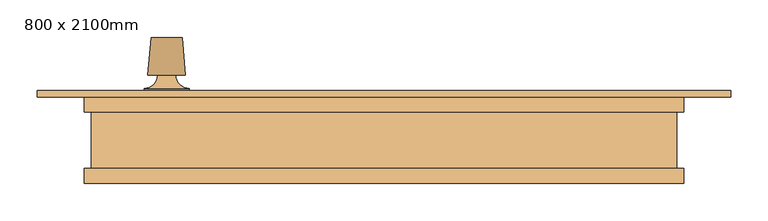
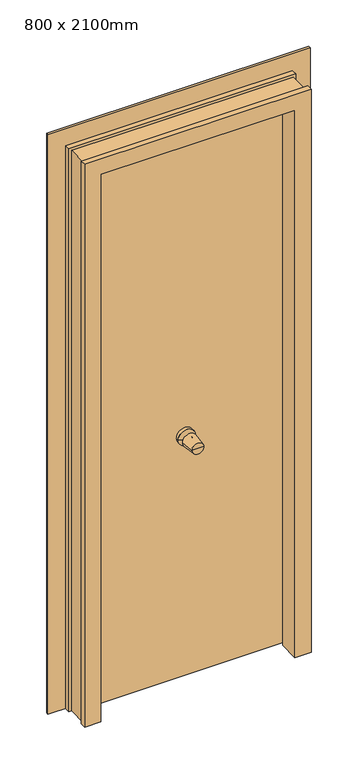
"""IFC4 building model written with IfcOpenShell, lengths in millimetres: door geometry, Puerta de entrada a la vivienda : 800 x 2100mm."""

import ifcopenshell
import ifcopenshell.guid

model = None  # the IFC model being written
_history = None  # IfcOwnerHistory: only IFC2X3 demands one
_inside = {}  # id of a spatial element -> (the spatial element, [elements in it])
_under = {}  # id of a project, library or spatial element -> (it, [spatial elements below it])
_declared = {}  # id of a project -> (the project, [libraries it declares])
_typed = {}  # id of a type object -> (the type object, [elements of that type])
_made_of = {}  # id of a material, layer set ... -> (it, [elements and type objects made of it])


def new_model(schema):
    """Start an empty IFC model of exactly this schema.

    Asked for "IFC4X3", IfcOpenShell would pick the latest addendum, in which some entities
    have other attributes; the version numbers below select the first issue.
    IFC2X3 requires an IfcOwnerHistory on every rooted entity: one is made here for all.
    """
    global model, _history
    if schema == "IFC4X3":
        model = ifcopenshell.file(schema_version=(4, 3, 0, 0))
    else:
        model = ifcopenshell.file(schema=schema)
    _inside.clear()
    _under.clear()
    _declared.clear()
    _typed.clear()
    _made_of.clear()
    _history = None
    if model.schema == "IFC2X3":
        org = make("IfcOrganization", Name="unknown")
        user = make(
            "IfcPersonAndOrganization",
            ThePerson=make("IfcPerson", FamilyName="unknown"),
            TheOrganization=org,
        )
        app = make(
            "IfcApplication",
            ApplicationDeveloper=org,
            Version="unknown",
            ApplicationFullName="unknown",
            ApplicationIdentifier="unknown",
        )
        _history = make(
            "IfcOwnerHistory",
            OwningUser=user,
            OwningApplication=app,
            ChangeAction="ADDED",
            CreationDate=0,
        )
    return model


def make(cls, **values):
    """One entity of the class cls with the attributes given. An attribute that is None is left unset."""
    return model.create_entity(
        cls, **{name: value for name, value in values.items() if value is not None}
    )


def rooted(cls, **values):
    """An entity with a GlobalId (a new one), such as an element, a storey or a relation."""
    return make(cls, GlobalId=ifcopenshell.guid.new(), OwnerHistory=_history, **values)


def si_unit(unit_type, name, prefix=None):
    """IfcSIUnit, for example si_unit("LENGTHUNIT", "METRE", prefix="MILLI")."""
    return make("IfcSIUnit", UnitType=unit_type, Prefix=prefix, Name=name)


def assignment(units):
    """IfcUnitAssignment: the units of a project."""
    return None if units is None else make("IfcUnitAssignment", Units=units)


def point(xyz):
    """IfcCartesianPoint."""
    return None if xyz is None else make("IfcCartesianPoint", Coordinates=xyz)


def direction(xyz):
    """IfcDirection."""
    return None if xyz is None else make("IfcDirection", DirectionRatios=xyz)


def frame(location, z_axis=None, x_axis=None):
    """IfcAxis2Placement3D, a coordinate frame: its origin and axes. An axis left out is left unset."""
    return make(
        "IfcAxis2Placement3D",
        Location=point(location),
        Axis=direction(z_axis),
        RefDirection=direction(x_axis),
    )


def origin():
    """The frame at (0, 0, 0) with its axes left unset."""
    return frame((0.0, 0.0, 0.0))


def place(relative_to, where):
    """IfcLocalPlacement: puts the frame where relative to a parent placement (None: the world)."""
    return make(
        "IfcLocalPlacement", PlacementRelTo=relative_to, RelativePlacement=where
    )


def context(
    kind, dimensions, precision=None, world=None, true_north=None, identifier=None
):
    """IfcGeometricRepresentationContext, for example the 3D "Model" context."""
    return make(
        "IfcGeometricRepresentationContext",
        ContextIdentifier=identifier,
        ContextType=kind,
        CoordinateSpaceDimension=dimensions,
        Precision=precision,
        WorldCoordinateSystem=world,
        TrueNorth=true_north,
    )


def project(units=None, contexts=None):
    """IfcProject with its units and contexts."""
    return rooted(
        "IfcProject",
        Name="project",
        RepresentationContexts=contexts,
        UnitsInContext=assignment(units),
    )


def spatial(cls, under=None, at=None, **own):
    """A site, building, storey or space (cls), placed at a placement, below another one or the project."""
    s = rooted(cls, ObjectPlacement=at, **own)
    if under is not None:
        _under.setdefault(under.id(), (under, []))[1].append(s)
    return s


def polyline(points):
    """IfcPolyline through the points."""
    return make("IfcPolyline", Points=[point(p) for p in points])


def circle_curve(where, radius):
    """IfcCircle in the frame where."""
    return make("IfcCircle", Position=where, Radius=radius)


def ellipse_curve(where, semi_axis1, semi_axis2):
    """IfcEllipse in the frame where."""
    return make(
        "IfcEllipse", Position=where, SemiAxis1=semi_axis1, SemiAxis2=semi_axis2
    )


def trimmed(basis, trim1, trim2, sense, master):
    """IfcTrimmedCurve: the piece of a basis curve between two trims."""
    return make(
        "IfcTrimmedCurve",
        BasisCurve=basis,
        Trim1=trim1,
        Trim2=trim2,
        SenseAgreement=sense,
        MasterRepresentation=master,
    )


def outline(outer, holes=None, kind="AREA"):
    """IfcArbitraryClosedProfileDef: a profile drawn as a closed curve; with holes, ...WithVoids."""
    if holes is None:
        return make("IfcArbitraryClosedProfileDef", ProfileType=kind, OuterCurve=outer)
    return make(
        "IfcArbitraryProfileDefWithVoids",
        ProfileType=kind,
        OuterCurve=outer,
        InnerCurves=holes,
    )


def extrude(swept, where, along, depth):
    """IfcExtrudedAreaSolid: the profile swept, set in the frame where, extruded along a direction by depth."""
    return make(
        "IfcExtrudedAreaSolid",
        SweptArea=swept,
        Position=where,
        ExtrudedDirection=direction(along),
        Depth=depth,
    )


def faces_of(points, faces, orient=None, outer=None):
    """IfcFace entities. A face is a list of loops; a loop is a list of indices into points, from 0.

    orient and outer hold one flag for each loop. By default every Orientation is true, the
    first loop of a face is its IfcFaceOuterBound and the others are IfcFaceBound.
    """
    made = []
    for i, loops in enumerate(faces):
        bounds = []
        for j, loop in enumerate(loops):
            is_outer = j == 0 if outer is None else outer[i][j]
            bounds.append(
                make(
                    "IfcFaceOuterBound" if is_outer else "IfcFaceBound",
                    Bound=make("IfcPolyLoop", Polygon=[points[k] for k in loop]),
                    Orientation=True if orient is None else orient[i][j],
                )
            )
        made.append(make("IfcFace", Bounds=bounds))
    return made


def faceted_brep(points, faces, orient=None, outer=None, voids=None):
    """IfcFacetedBrep: a solid bounded by flat faces; with voids (closed shells), ...WithVoids."""
    shared = [point(p) for p in points]
    hull = make("IfcClosedShell", CfsFaces=faces_of(shared, faces, orient, outer))
    if voids is None:
        return make("IfcFacetedBrep", Outer=hull)
    return make(
        "IfcFacetedBrepWithVoids",
        Outer=hull,
        Voids=[
            make(cls, CfsFaces=faces_of(shared, fs, o, b)) for cls, fs, o, b in voids
        ],
    )


def shape(context_of_items, identifier, shape_type, items):
    """IfcShapeRepresentation: the items that make up one representation, for example the "Body"."""
    return make(
        "IfcShapeRepresentation",
        ContextOfItems=context_of_items,
        RepresentationIdentifier=identifier,
        RepresentationType=shape_type,
        Items=items,
    )


def source(mapping_origin, context_of_items, identifier, shape_type, items):
    """IfcRepresentationMap: a shape defined once, which mapped items show again and again."""
    return make(
        "IfcRepresentationMap",
        MappingOrigin=mapping_origin,
        MappedRepresentation=shape(context_of_items, identifier, shape_type, items),
    )


def transform(
    local_origin,
    x_axis=None,
    y_axis=None,
    z_axis=None,
    scale=None,
    scale2=None,
    scale3=None,
    uniform=True,
):
    """IfcCartesianTransformationOperator3D, or its non-uniform kind. x_axis, y_axis, z_axis: its Axis1, 2, 3."""
    if uniform:
        return make(
            "IfcCartesianTransformationOperator3D",
            Axis1=direction(x_axis),
            Axis2=direction(y_axis),
            LocalOrigin=point(local_origin),
            Scale=scale,
            Axis3=direction(z_axis),
        )
    return make(
        "IfcCartesianTransformationOperator3DnonUniform",
        Axis1=direction(x_axis),
        Axis2=direction(y_axis),
        LocalOrigin=point(local_origin),
        Scale=scale,
        Axis3=direction(z_axis),
        Scale2=scale2,
        Scale3=scale3,
    )


def mapped(mapping_source, mapping_target):
    """IfcMappedItem: shows the shape of a source again, moved by a transform."""
    return make(
        "IfcMappedItem", MappingSource=mapping_source, MappingTarget=mapping_target
    )


def made_of(thing, what):
    """Note that an element or type object is made of a material, layer set ...; save() writes the relation."""
    if what is not None:
        _made_of.setdefault(what.id(), (what, []))[1].append(thing)
    return thing


def element(
    cls,
    number,
    at=None,
    inside=None,
    cuts=None,
    type_object=None,
    material=None,
    context=None,
    identifier="Body",
    shape_type=None,
    held_by="IfcProductDefinitionShape",
    body=None,
    shapes=None,
    **own,
):
    """One element of the class cls, such as IfcWall. Its Tag is "e" and its number.

    at: its placement. inside: the storey or other place that contains it. cuts: it is an
    opening in that element (IfcRelVoidsElement). A single representation is given by context,
    identifier, shape_type and body (its items); several are given by shapes. held_by: the class
    of the entity that holds the representations. save() writes the other relations.
    """
    e = rooted(cls, Tag="e%d" % number, ObjectPlacement=at, **own)
    if body is not None:
        shapes = [shape(context, identifier, shape_type, body)]
    if shapes is not None:
        e.Representation = make(held_by, Representations=shapes)
    if inside is not None:
        _inside.setdefault(inside.id(), (inside, []))[1].append(e)
    if cuts is not None:
        rooted(
            "IfcRelVoidsElement", RelatingBuildingElement=cuts, RelatedOpeningElement=e
        )
    if type_object is not None:
        _typed.setdefault(type_object.id(), (type_object, []))[1].append(e)
    return made_of(e, material)


def aggregate(whole, parts):
    """IfcRelAggregates: a whole, such as a stair, and the parts it consists of."""
    return rooted("IfcRelAggregates", RelatingObject=whole, RelatedObjects=parts)


def save(model, path):
    """Write the relations noted so far, then the file.

    IfcRelAggregates (storeys below a building ...), IfcRelContainedInSpatialStructure (elements
    in a storey), IfcRelDefinesByType, IfcRelAssociatesMaterial and IfcRelDeclares: one each for
    every whole, place, type object, material and project.
    """
    for whole, parts in _under.values():
        aggregate(whole, parts)
    for where, things in _inside.values():
        rooted(
            "IfcRelContainedInSpatialStructure",
            RelatedElements=things,
            RelatingStructure=where,
        )
    for kind, things in _typed.values():
        rooted("IfcRelDefinesByType", RelatedObjects=things, RelatingType=kind)
    for what, things in _made_of.values():
        rooted("IfcRelAssociatesMaterial", RelatedObjects=things, RelatingMaterial=what)
    for by, libraries in _declared.values():
        rooted("IfcRelDeclares", RelatingContext=by, RelatedDefinitions=libraries)
    model.write(path)


def plane_surface(at):
    """IfcPlane: the flat surface through the origin of the frame at, square to its z axis."""
    return make("IfcPlane", Position=at)


def cylinder_surface(at, radius):
    """IfcCylindricalSurface: all points at the distance radius from the z axis of the frame at."""
    return make("IfcCylindricalSurface", Position=at, Radius=radius)


def revolved_surface(curve, axis_point, axis_direction):
    """IfcSurfaceOfRevolution: the curve turned about the line through axis_point along axis_direction."""
    return make(
        "IfcSurfaceOfRevolution",
        SweptCurve=make("IfcArbitraryOpenProfileDef", ProfileType="CURVE", Curve=curve),
        AxisPosition=make("IfcAxis1Placement", Location=point(axis_point), Axis=direction(axis_direction)),
    )


def advanced_brep(points, edges, surfaces, faces):
    """IfcAdvancedBrep: a solid bounded by faces that lie on surfaces and meet in shared edges.

    An edge is (start, end): straight between two places in points (the first is 0);
    or (start, end, curve); or (start, end, curve, False) where it runs against its curve.
    A face is (place in surfaces, loops), or (place, loops, False) where it looks against
    its surface's normal. A loop lists edges by number (the first is 1), with a minus sign
    where the edge is run from its end to its start. The first loop is the outer one.
    """
    corners = [point(p) for p in points]
    vertices = [make("IfcVertexPoint", VertexGeometry=c) for c in corners]
    made = []
    for start, end, *more in edges:
        made.append(
            make(
                "IfcEdgeCurve",
                EdgeStart=vertices[start],
                EdgeEnd=vertices[end],
                EdgeGeometry=more[0] if more else make("IfcPolyline", Points=[corners[start], corners[end]]),
                SameSense=more[1] if len(more) > 1 else True,
            )
        )
    hull = []
    for where, loops, *sense in faces:
        bounds = []
        for j, loop in enumerate(loops):
            ring = [make("IfcOrientedEdge", EdgeElement=made[abs(k) - 1], Orientation=k > 0) for k in loop]
            bounds.append(
                make(
                    "IfcFaceOuterBound" if j == 0 else "IfcFaceBound",
                    Bound=make("IfcEdgeLoop", EdgeList=ring),
                    Orientation=True,
                )
            )
        hull.append(make("IfcAdvancedFace", Bounds=bounds, FaceSurface=surfaces[where], SameSense=sense[0] if sense else True))
    return make("IfcAdvancedBrep", Outer=make("IfcClosedShell", CfsFaces=hull))


def door_800_x_2100mm_72a88144(model_context):
    return source(origin(), model_context, "Body", "SolidModel", [
        advanced_brep(
        [(-30.0, 80.5, 900.0), (30.0, 80.5, 900.0), (30.0, 92.5, 900.0), (-30.0, 92.5, 900.0), (-12.0, 62.5, 900.0), (12.0, 62.5, 900.0), (-25.0, 62.5, 900.0), (25.0, 62.5, 900.0), (-20.8333333, 12.5, 900.0), (20.8333333, 12.5, 900.0), (0.0, 12.5, 900.0), (0.0, 92.5, 900.0)],
        [
            (0, 1, circle_curve(frame((0.0, 80.5, 900.0), z_axis=(0.0, 1.0, 0.0), x_axis=(1.0, 0.0, 0.0)), 30.0)),
            (1, 2),
            (2, 3, circle_curve(frame((0.0, 92.5, 900.0), z_axis=(0.0, -1.0, 0.0), x_axis=(1.0, 0.0, 0.0)), 30.0)),
            (3, 0),
            (1, 0, circle_curve(frame((0.0, 80.5, 900.0), z_axis=(0.0, 1.0, 0.0), x_axis=(1.0, 0.0, 0.0)), 30.0)),
            (3, 2, circle_curve(frame((0.0, 92.5, 900.0), z_axis=(0.0, -1.0, 0.0), x_axis=(1.0, 0.0, 0.0)), 30.0)),
            (4, 5, circle_curve(frame((0.0, 62.5, 900.0), z_axis=(0.0, 1.0, 0.0), x_axis=(1.0, 0.0, 0.0)), 12.0)),
            (5, 1, circle_curve(frame((30.0, 62.5, 900.0), z_axis=(0.0, 0.0, -1.0), x_axis=(1.0, 0.0, 0.0)), 18.0)),
            (0, 4, circle_curve(frame((-30.0, 62.5, 900.0), z_axis=(0.0, 0.0, -1.0), x_axis=(-1.0, 0.0, 0.0)), 18.0)),
            (5, 4, circle_curve(frame((0.0, 62.5, 900.0), z_axis=(0.0, 1.0, 0.0), x_axis=(1.0, 0.0, 0.0)), 12.0)),
            (6, 7, circle_curve(frame((0.0, 62.5, 900.0), z_axis=(0.0, 1.0, 0.0), x_axis=(1.0, 0.0, 0.0)), 25.0)),
            (7, 5),
            (4, 6),
            (7, 6, circle_curve(frame((0.0, 62.5, 900.0), z_axis=(0.0, 1.0, 0.0), x_axis=(1.0, 0.0, 0.0)), 25.0)),
            (8, 9, circle_curve(frame((0.0, 12.5, 900.0), z_axis=(0.0, 1.0, 0.0), x_axis=(1.0, 0.0, 0.0)), 20.8333333)),
            (9, 7),
            (6, 8),
            (9, 8, circle_curve(frame((0.0, 12.5, 900.0), z_axis=(0.0, 1.0, 0.0), x_axis=(1.0, 0.0, 0.0)), 20.8333333)),
            (10, 9),
            (8, 10),
            (2, 11),
            (11, 3),
        ],
        [
            cylinder_surface(frame((0.0, -52.5, 900.0), z_axis=(0.0, -1.0, 0.0), x_axis=(1.0, 0.0, 0.0)), 30.0),
            revolved_surface(trimmed(ellipse_curve(frame((30.0, 62.5, 900.0), z_axis=(0.0, 0.0, 1.0), x_axis=(1.0, 0.0, 0.0)), 18.0, 18.0), [point((30.0, 80.5, 900.0))], [point((12.0, 62.5, 900.0))], True, "CARTESIAN"), (0.0, -52.5, 900.0), (0.0, -1.0, 0.0)),
            plane_surface(frame((0.0, 62.5, 900.0), z_axis=(0.0, 1.0, 0.0), x_axis=(1.0, 0.0, 0.0))),
            revolved_surface(polyline([(25.0, 62.5, 900.0), (20.8333333, 12.5, 900.0)]), (0.0, -52.5, 900.0), (0.0, -1.0, 0.0)),
            plane_surface(frame((0.0, 12.5, 900.0), z_axis=(0.0, -1.0, 0.0), x_axis=(1.0, 0.0, 0.0))),
            plane_surface(frame((0.0, 92.5, 900.0), z_axis=(0.0, 1.0, 0.0), x_axis=(1.0, 0.0, 0.0))),
        ],
        [
            (0, [[1, 2, 3, 4]]),
            (0, [[5, -4, 6, -2]]),
            (1, [[7, 8, -1, 9]]),
            (1, [[10, -9, -5, -8]]),
            (2, [[11, 12, -7, 13]]),
            (2, [[14, -13, -10, -12]]),
            (3, [[15, 16, -11, 17]]),
            (3, [[18, -17, -14, -16]]),
            (4, [[19, -15, 20]]),
            (4, [[-20, -18, -19]]),
            (5, [[-3, 21, 22]]),
            (5, [[-6, -22, -21]]),
        ],
    ),
        advanced_brep(
        [(-260.0, 139.5, 900.0), (-320.0, 139.5, 900.0), (-320.0, 127.5, 900.0), (-260.0, 127.5, 900.0), (-278.0, 157.5, 900.0), (-302.0, 157.5, 900.0), (-265.0, 157.5, 900.0), (-315.0, 157.5, 900.0), (-269.1666667, 207.5, 900.0), (-310.8333333, 207.5, 900.0), (-290.0, 207.5, 900.0), (-290.0, 127.5, 900.0)],
        [
            (0, 1, circle_curve(frame((-290.0, 139.5, 900.0), z_axis=(0.0, -1.0, 0.0), x_axis=(-1.0, 0.0, 0.0)), 30.0)),
            (1, 2),
            (2, 3, circle_curve(frame((-290.0, 127.5, 900.0), z_axis=(0.0, 1.0, 0.0), x_axis=(-1.0, 0.0, 0.0)), 30.0)),
            (3, 0),
            (1, 0, circle_curve(frame((-290.0, 139.5, 900.0), z_axis=(0.0, -1.0, 0.0), x_axis=(-1.0, 0.0, 0.0)), 30.0)),
            (3, 2, circle_curve(frame((-290.0, 127.5, 900.0), z_axis=(0.0, 1.0, 0.0), x_axis=(-1.0, 0.0, 0.0)), 30.0)),
            (4, 5, circle_curve(frame((-290.0, 157.5, 900.0), z_axis=(0.0, -1.0, 0.0), x_axis=(-1.0, 0.0, 0.0)), 12.0)),
            (5, 1, circle_curve(frame((-320.0, 157.5, 900.0), z_axis=(0.0, 0.0, -1.0), x_axis=(-1.0, 0.0, 0.0)), 18.0)),
            (0, 4, circle_curve(frame((-260.0, 157.5, 900.0), z_axis=(0.0, 0.0, -1.0), x_axis=(1.0, 0.0, 0.0)), 18.0)),
            (5, 4, circle_curve(frame((-290.0, 157.5, 900.0), z_axis=(0.0, -1.0, 0.0), x_axis=(-1.0, 0.0, 0.0)), 12.0)),
            (6, 7, circle_curve(frame((-290.0, 157.5, 900.0), z_axis=(0.0, -1.0, 0.0), x_axis=(-1.0, 0.0, 0.0)), 25.0)),
            (7, 5),
            (4, 6),
            (7, 6, circle_curve(frame((-290.0, 157.5, 900.0), z_axis=(0.0, -1.0, 0.0), x_axis=(-1.0, 0.0, 0.0)), 25.0)),
            (8, 9, circle_curve(frame((-290.0, 207.5, 900.0), z_axis=(0.0, -1.0, 0.0), x_axis=(-1.0, 0.0, 0.0)), 20.8333333)),
            (9, 7),
            (6, 8),
            (9, 8, circle_curve(frame((-290.0, 207.5, 900.0), z_axis=(0.0, -1.0, 0.0), x_axis=(-1.0, 0.0, 0.0)), 20.8333333)),
            (10, 9),
            (8, 10),
            (2, 11),
            (11, 3),
        ],
        [
            cylinder_surface(frame((-290.0, 272.5, 900.0), z_axis=(0.0, 1.0, 0.0), x_axis=(-1.0, 0.0, 0.0)), 30.0),
            revolved_surface(trimmed(ellipse_curve(frame((-320.0, 157.5, 900.0), z_axis=(0.0, 0.0, 1.0), x_axis=(-1.0, 0.0, 0.0)), 18.0, 18.0), [point((-320.0, 139.5, 900.0))], [point((-302.0, 157.5, 900.0))], True, "CARTESIAN"), (-290.0, 272.5, 900.0), (0.0, 1.0, 0.0)),
            plane_surface(frame((-290.0, 157.5, 900.0), z_axis=(0.0, -1.0, 0.0), x_axis=(-1.0, 0.0, 0.0))),
            revolved_surface(polyline([(-315.0, 157.5, 900.0), (-310.8333333, 207.5, 900.0)]), (-290.0, 272.5, 900.0), (0.0, 1.0, 0.0)),
            plane_surface(frame((-290.0, 207.5, 900.0), z_axis=(0.0, 1.0, 0.0), x_axis=(-1.0, 0.0, 0.0))),
            plane_surface(frame((-290.0, 127.5, 900.0), z_axis=(0.0, -1.0, 0.0), x_axis=(-1.0, 0.0, 0.0))),
        ],
        [
            (0, [[1, 2, 3, 4]]),
            (0, [[5, -4, 6, -2]]),
            (1, [[7, 8, -1, 9]]),
            (1, [[10, -9, -5, -8]]),
            (2, [[11, 12, -7, 13]]),
            (2, [[14, -13, -10, -12]]),
            (3, [[15, 16, -11, 17]]),
            (3, [[18, -17, -14, -16]]),
            (4, [[19, -15, 20]]),
            (4, [[-20, -18, -19]]),
            (5, [[-3, 21, 22]]),
            (5, [[-6, -22, -21]]),
        ],
    ),
        faceted_brep([(-400.0, 12.5, 0.0), (-400.0, 32.5, 0.0), (-391.0, 32.5, 0.0), (-391.0, 107.5, 0.0), (-400.0, 107.5, 0.0), (-400.0, 127.5, 0.0), (-355.0, 127.5, 0.0), (-355.0, 87.5, 0.0), (-342.0, 87.5, 0.0), (-342.0, 12.5, 0.0), (-400.0, 12.5, 2100.0), (-400.0, 32.5, 2100.0), (400.0, 32.5, 2100.0), (400.0, 32.5, 0.0), (391.0, 32.5, 0.0), (391.0, 32.5, 2091.0), (-391.0, 32.5, 2091.0), (-391.0, 107.5, 2091.0), (391.0, 107.5, 2091.0), (391.0, 107.5, 0.0), (400.0, 107.5, 0.0), (400.0, 107.5, 2100.0), (-400.0, 107.5, 2100.0), (-400.0, 127.5, 2100.0), (400.0, 127.5, 2100.0), (400.0, 127.5, 0.0), (355.0, 127.5, 0.0), (355.0, 127.5, 2055.0), (-355.0, 127.5, 2055.0), (-355.0, 87.5, 2055.0), (355.0, 87.5, 2055.0), (355.0, 87.5, 0.0), (342.0, 87.5, 0.0), (342.0, 87.5, 2042.0), (-342.0, 87.5, 2042.0), (-342.0, 12.5, 2042.0), (342.0, 12.5, 2042.0), (342.0, 12.5, 0.0), (400.0, 12.5, 0.0), (400.0, 12.5, 2100.0)], [[[0, 1, 2, 3, 4, 5, 6, 7, 8, 9]], [[1, 0, 10, 11]], [[2, 1, 11, 12, 13, 14, 15, 16]], [[3, 2, 16, 17]], [[4, 3, 17, 18, 19, 20, 21, 22]], [[5, 4, 22, 23]], [[6, 5, 23, 24, 25, 26, 27, 28]], [[7, 6, 28, 29]], [[8, 7, 29, 30, 31, 32, 33, 34]], [[9, 8, 34, 35]], [[0, 9, 35, 36, 37, 38, 39, 10]], [[11, 10, 39, 12]], [[17, 16, 15, 18]], [[23, 22, 21, 24]], [[29, 28, 27, 30]], [[35, 34, 33, 36]], [[38, 37, 32, 31, 26, 25, 20, 19, 14, 13]], [[12, 39, 38, 13]], [[18, 15, 14, 19]], [[24, 21, 20, 25]], [[30, 27, 26, 31]], [[36, 33, 32, 37]]]),
        extrude(outline(polyline([(350.0, 127.5), (350.0, 92.5), (-350.0, 92.5), (-350.0, 127.5), (350.0, 127.5)])), frame((0.0, 0.0, 5.0), z_axis=(0.0, 0.0, 1.0), x_axis=(1.0, 0.0, 0.0)), (0.0, 0.0, 1.0), 2045.0),
        extrude(outline(polyline([(0.0, -462.5), (0.0, -382.5), (2082.5, -382.5), (2082.5, 382.5), (0.0, 382.5), (0.0, 462.5), (2162.5, 462.5), (2162.5, -462.5), (0.0, -462.5)])), frame((0.0, 127.5, 0.0), z_axis=(0.0, 1.0, 0.0), x_axis=(0.0, 0.0, 1.0)), (0.0, 0.0, 1.0), 9.0),
    ])


if __name__ == "__main__":
    model = new_model("IFC4")
    model_context = context("Model", 3, world=origin())
    ifc_project = project(units=[si_unit("LENGTHUNIT", "METRE", prefix="MILLI")], contexts=[model_context])
    site = spatial("IfcSite", under=ifc_project)
    building = spatial("IfcBuilding", under=site)
    placement = place(None, origin())
    door_800_x_2100mm_shape = door_800_x_2100mm_72a88144(model_context)
    element("IfcDoor", 1, ObjectType="Puerta de entrada a la vivienda : 800 x 2100mm", at=placement, inside=building, context=model_context, shape_type="MappedRepresentation", body=[
        mapped(door_800_x_2100mm_shape, transform((0.0, 0.0, 0.0), x_axis=(1.0, 0.0, 0.0), y_axis=(0.0, 1.0, 0.0), z_axis=(0.0, 0.0, 1.0))),
    ])
    save(model, "model.ifc")
